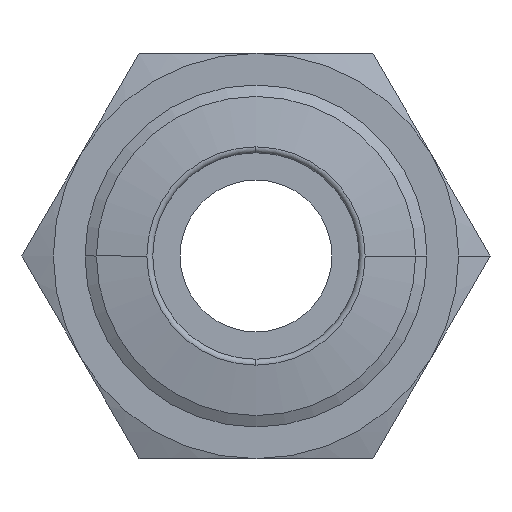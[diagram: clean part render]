
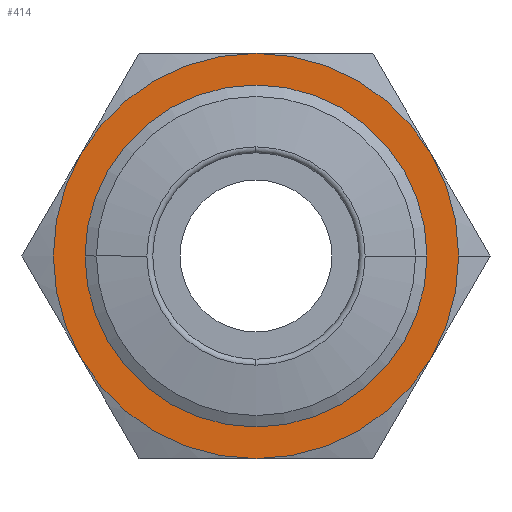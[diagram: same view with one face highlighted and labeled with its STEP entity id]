
A CAD part, front view. The second image highlights one B-rep face of the part: STEP entity #414.
In plain terms, the highlighted planar face has unit normal (0, -1, 0).
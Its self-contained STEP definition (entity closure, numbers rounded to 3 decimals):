
#6 = FACE_OUTER_BOUND ( 'NONE', #2147, .T. ) ;
#34 = DIRECTION ( 'NONE',  ( 1., 0., 0. ) ) ;
#46 = DIRECTION ( 'NONE',  ( 1., 0., 0. ) ) ;
#110 = ORIENTED_EDGE ( 'NONE', *, *, #126, .T. ) ;
#116 = AXIS2_PLACEMENT_3D ( 'NONE', #2010, #1534, #1968 ) ;
#126 = EDGE_CURVE ( 'NONE', #325, #1474, #1712, .T. ) ;
#219 = ORIENTED_EDGE ( 'NONE', *, *, #1034, .T. ) ;
#245 = AXIS2_PLACEMENT_3D ( 'NONE', #1407, #2273, #2286 ) ;
#250 = AXIS2_PLACEMENT_3D ( 'NONE', #2375, #260, #34 ) ;
#251 = CIRCLE ( 'NONE', #116, 16. ) ;
#260 = DIRECTION ( 'NONE',  ( 0., -1., 0. ) ) ;
#297 = EDGE_LOOP ( 'NONE', ( #806, #2405 ) ) ;
#325 = VERTEX_POINT ( 'NONE', #1853 ) ;
#373 = CIRCLE ( 'NONE', #1714, 13.5 ) ;
#385 = CIRCLE ( 'NONE', #250, 13.5 ) ;
#407 = CARTESIAN_POINT ( 'NONE',  ( 0., -7.5, 16. ) ) ;
#414 = ADVANCED_FACE ( 'NONE', ( #6, #1935 ), #859, .T. ) ;
#454 = DIRECTION ( 'NONE',  ( 1., 0., 0. ) ) ;
#521 = CIRCLE ( 'NONE', #245, 16. ) ;
#522 = EDGE_CURVE ( 'NONE', #1843, #922, #373, .T. ) ;
#671 = CARTESIAN_POINT ( 'NONE',  ( -13.856, -7.5, 8. ) ) ;
#806 = ORIENTED_EDGE ( 'NONE', *, *, #1762, .F. ) ;
#815 = CARTESIAN_POINT ( 'NONE',  ( 13.5, -7.5, 0. ) ) ;
#832 = CIRCLE ( 'NONE', #1329, 16. ) ;
#859 = PLANE ( 'NONE',  #2671 ) ;
#922 = VERTEX_POINT ( 'NONE', #815 ) ;
#956 = VERTEX_POINT ( 'NONE', #1878 ) ;
#1006 = CIRCLE ( 'NONE', #1588, 16. ) ;
#1034 = EDGE_CURVE ( 'NONE', #1474, #2579, #2763, .T. ) ;
#1088 = AXIS2_PLACEMENT_3D ( 'NONE', #2399, #2387, #454 ) ;
#1125 = ORIENTED_EDGE ( 'NONE', *, *, #1441, .T. ) ;
#1177 = EDGE_CURVE ( 'NONE', #1510, #1787, #521, .T. ) ;
#1278 = DIRECTION ( 'NONE',  ( 0., -1., 0. ) ) ;
#1322 = EDGE_CURVE ( 'NONE', #2579, #1510, #1006, .T. ) ;
#1329 = AXIS2_PLACEMENT_3D ( 'NONE', #1466, #1928, #2517 ) ;
#1407 = CARTESIAN_POINT ( 'NONE',  ( 0., -7.5, 0. ) ) ;
#1441 = EDGE_CURVE ( 'NONE', #956, #325, #2496, .T. ) ;
#1466 = CARTESIAN_POINT ( 'NONE',  ( 0., -7.5, 0. ) ) ;
#1474 = VERTEX_POINT ( 'NONE', #2425 ) ;
#1476 = DIRECTION ( 'NONE',  ( -1., 0., 0. ) ) ;
#1510 = VERTEX_POINT ( 'NONE', #671 ) ;
#1527 = CARTESIAN_POINT ( 'NONE',  ( 0., -7.5, 0. ) ) ;
#1534 = DIRECTION ( 'NONE',  ( 0., -1., 0. ) ) ;
#1559 = DIRECTION ( 'NONE',  ( 0., -1., 0. ) ) ;
#1569 = CARTESIAN_POINT ( 'NONE',  ( 0., -7.5, -16. ) ) ;
#1588 = AXIS2_PLACEMENT_3D ( 'NONE', #2762, #1278, #2117 ) ;
#1668 = ORIENTED_EDGE ( 'NONE', *, *, #2615, .T. ) ;
#1712 = CIRCLE ( 'NONE', #2397, 16. ) ;
#1714 = AXIS2_PLACEMENT_3D ( 'NONE', #1956, #2421, #1781 ) ;
#1762 = EDGE_CURVE ( 'NONE', #922, #1843, #385, .T. ) ;
#1781 = DIRECTION ( 'NONE',  ( 1., 0., 0. ) ) ;
#1787 = VERTEX_POINT ( 'NONE', #2004 ) ;
#1843 = VERTEX_POINT ( 'NONE', #2271 ) ;
#1853 = CARTESIAN_POINT ( 'NONE',  ( 16., -7.5, 0. ) ) ;
#1860 = ORIENTED_EDGE ( 'NONE', *, *, #2015, .T. ) ;
#1878 = CARTESIAN_POINT ( 'NONE',  ( 13.856, -7.5, -8. ) ) ;
#1928 = DIRECTION ( 'NONE',  ( 0., -1., 0. ) ) ;
#1935 = FACE_BOUND ( 'NONE', #297, .T. ) ;
#1956 = CARTESIAN_POINT ( 'NONE',  ( 0., -7.5, 0. ) ) ;
#1968 = DIRECTION ( 'NONE',  ( 1., 0., 0. ) ) ;
#2004 = CARTESIAN_POINT ( 'NONE',  ( -13.856, -7.5, -8. ) ) ;
#2010 = CARTESIAN_POINT ( 'NONE',  ( 0., -7.5, 0. ) ) ;
#2015 = EDGE_CURVE ( 'NONE', #1787, #2720, #832, .T. ) ;
#2117 = DIRECTION ( 'NONE',  ( 1., 0., 0. ) ) ;
#2147 = EDGE_LOOP ( 'NONE', ( #1125, #110, #219, #2261, #2385, #1860, #1668 ) ) ;
#2204 = DIRECTION ( 'NONE',  ( 0., -1., 0. ) ) ;
#2261 = ORIENTED_EDGE ( 'NONE', *, *, #1322, .T. ) ;
#2271 = CARTESIAN_POINT ( 'NONE',  ( -13.5, -7.5, 0. ) ) ;
#2273 = DIRECTION ( 'NONE',  ( 0., -1., 0. ) ) ;
#2286 = DIRECTION ( 'NONE',  ( 1., 0., 0. ) ) ;
#2375 = CARTESIAN_POINT ( 'NONE',  ( 0., -7.5, 0. ) ) ;
#2385 = ORIENTED_EDGE ( 'NONE', *, *, #1177, .T. ) ;
#2387 = DIRECTION ( 'NONE',  ( 0., -1., 0. ) ) ;
#2397 = AXIS2_PLACEMENT_3D ( 'NONE', #1527, #1559, #2664 ) ;
#2399 = CARTESIAN_POINT ( 'NONE',  ( 0., -7.5, 0. ) ) ;
#2405 = ORIENTED_EDGE ( 'NONE', *, *, #522, .F. ) ;
#2421 = DIRECTION ( 'NONE',  ( 0., -1., 0. ) ) ;
#2425 = CARTESIAN_POINT ( 'NONE',  ( 13.856, -7.5, 8. ) ) ;
#2453 = AXIS2_PLACEMENT_3D ( 'NONE', #2607, #2204, #46 ) ;
#2496 = CIRCLE ( 'NONE', #2453, 16. ) ;
#2517 = DIRECTION ( 'NONE',  ( 1., 0., 0. ) ) ;
#2579 = VERTEX_POINT ( 'NONE', #407 ) ;
#2590 = CARTESIAN_POINT ( 'NONE',  ( 14.75, -7.5, 0. ) ) ;
#2607 = CARTESIAN_POINT ( 'NONE',  ( 0., -7.5, 0. ) ) ;
#2615 = EDGE_CURVE ( 'NONE', #2720, #956, #251, .T. ) ;
#2664 = DIRECTION ( 'NONE',  ( 1., 0., 0. ) ) ;
#2671 = AXIS2_PLACEMENT_3D ( 'NONE', #2590, #2785, #1476 ) ;
#2720 = VERTEX_POINT ( 'NONE', #1569 ) ;
#2762 = CARTESIAN_POINT ( 'NONE',  ( 0., -7.5, 0. ) ) ;
#2763 = CIRCLE ( 'NONE', #1088, 16. ) ;
#2785 = DIRECTION ( 'NONE',  ( 0., -1., 0. ) ) ;
